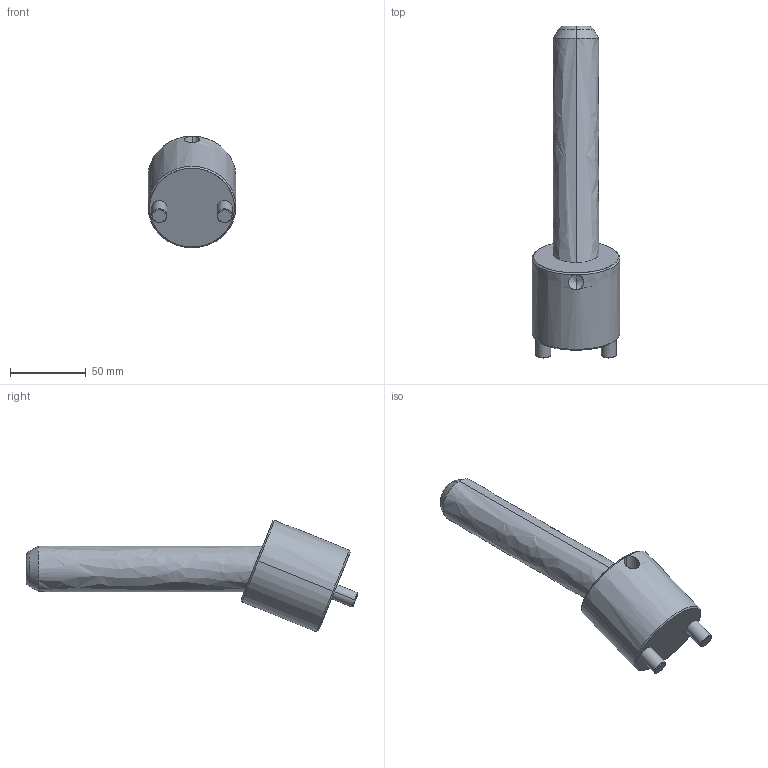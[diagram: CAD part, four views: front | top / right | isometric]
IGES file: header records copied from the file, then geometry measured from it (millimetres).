
Start section: START RECORD GO HERE.
Global section: file name: CI2230150.igs; native system: DASSAULT SYSTEMES CATIA V5 R20 - www.3ds.com; preprocessor: CATIA Version 5 Release 20 ; author: r.borello; organization: CFTORINO; date: 20190624.085938; units: millimetre
Bounding box: 58 x 218.84 x 73.63 mm (x, y, z)
Surface area: 40148.6 mm2 (no closed solid volume)
Topology: 0 solids, 0 shells, 39 faces, 168 edges, 166 vertices
Faces by surface type: revolution 32, plane 7
